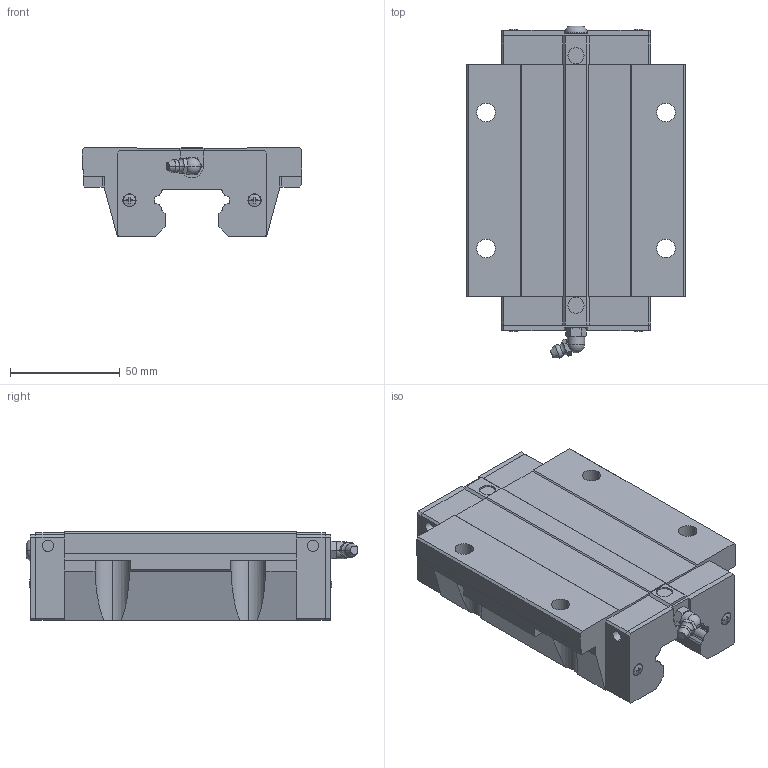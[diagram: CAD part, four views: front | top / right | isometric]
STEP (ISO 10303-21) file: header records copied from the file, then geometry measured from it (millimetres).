
FILE_DESCRIPTION(('no description'),'unknown implementation level');
FILE_NAME('QHW35HC_Z0_H_SS_21.stp',' ',('HIWIN GmbH'),('CADClick - KiM GmbH - www.kimweb.de'),'unknown preprocess','ACIS','unknown authorization');
FILE_SCHEMA(('automotive_design'));
Length unit declared in the file: millimetre
Products named in the file (1): QHW35HC Z0 H SS
Bounding box: 100 x 151.31 x 40.5 mm (x, y, z)
Volume: 348014.9 mm3; surface area: 50655.2 mm2
Topology: 1 solids, 4 shells, 368 faces, 984 edges, 640 vertices
Faces by surface type: plane 218, cylinder 92, cone 38, torus 18, sphere 2
Entity records: 22892 total; most frequent: CARTESIAN_POINT 2687, STYLED_ITEM 1991, PRESENTATION_STYLE_ASSIGNMENT 1991, COLOUR_RGB 1991, ORIENTED_EDGE 1964, DIRECTION 1862, EDGE_CURVE 982, CURVE_STYLE 982
